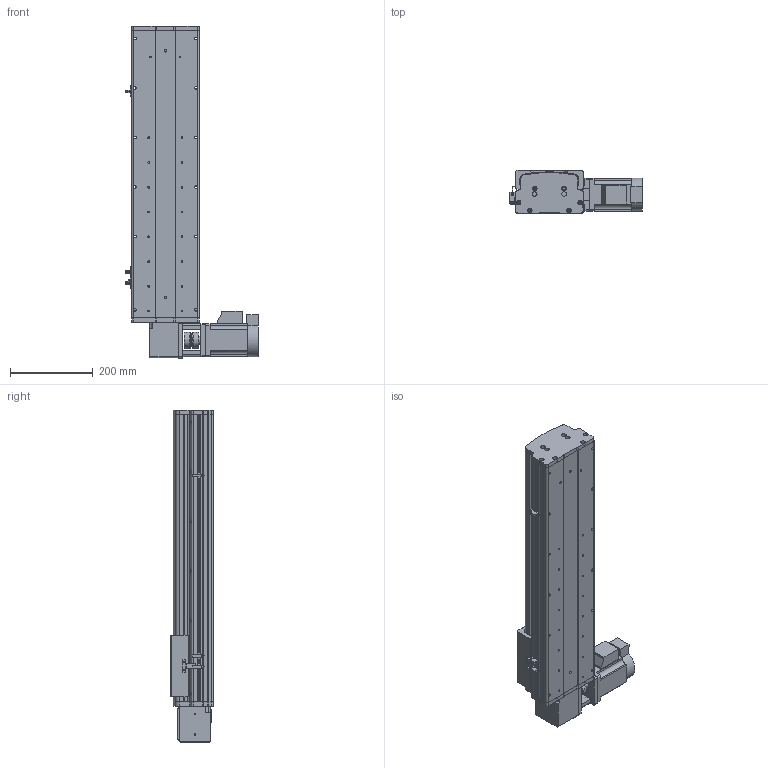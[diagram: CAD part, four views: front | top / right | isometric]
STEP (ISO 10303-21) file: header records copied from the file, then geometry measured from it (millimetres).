
FILE_DESCRIPTION (( 'STEP AP214' ), '1' );
FILE_NAME ('KSD165B-S450-MRT-CM .STEP', '2017-08-07T09:23:35', ( '微软用户' ), ( '微软中国' ), 'SwSTEP 2.0', 'SolidWorks 2014', '' );
FILE_SCHEMA (( 'AUTOMOTIVE_DESIGN' ));
Length unit declared in the file: millimetre
Products named in the file (16): KSD165B-S450-MRT-CM  ; KSD165模组-同步带防尘盖1-450行程-最新版; KSD165模组同步带底板-450行程-最新; 拸秶雄ん750W侜督萇儂; 165宽安装板同步带带电机座750W; 165宽马达安装板同步带右; C39ㄜ1419WP; U倰嫖萇假蚾璃; U倰嫖萇EEㄜSX672; 覜茼え68遵圉猾敕; KSD165模组-同步带-防撞垫2; KSD165模组同步带-防撞垫1; KSD165耀郪-ヶ傷啣1-肮祭湍; KSD165模组-后端板1-同步带; 130宽马达安装板1-带电机座750W（1）; KSD165模组-同步带滑动座-最新版
Assembly tree (19 placements, depth 2):
  KSD165B-S450-MRT-CM  
    KSD165模组-同步带滑动座-最新版
    130宽马达安装板1-带电机座750W（1）
    KSD165模组-后端板1-同步带
    KSD165耀郪-ヶ傷啣1-肮祭湍
    KSD165模组同步带-防撞垫1
    KSD165模组-同步带-防撞垫2
    覜茼え68遵圉猾敕
    U倰嫖萇EEㄜSX672  x3
    U倰嫖萇假蚾璃  x3
    C39ㄜ1419WP
    165宽马达安装板同步带右
    165宽安装板同步带带电机座750W
    拸秶雄ん750W侜督萇儂
    KSD165模组同步带底板-450行程-最新
    KSD165模组-同步带防尘盖1-450行程-最新版
Bounding box: 321.2 x 104 x 804 mm (x, y, z)
Volume: 5406839.3 mm3; surface area: 1194801.3 mm2
Topology: 20 solids, 20 shells, 1416 faces, 3924 edges, 2537 vertices
Faces by surface type: cylinder 751, plane 571, cone 94
Entity records: 44239 total; most frequent: CARTESIAN_POINT 9317, DIRECTION 6910, ORIENTED_EDGE 6500, EDGE_CURVE 3250, AXIS2_PLACEMENT_3D 2610, VERTEX_POINT 2129, LINE 1690, VECTOR 1690
